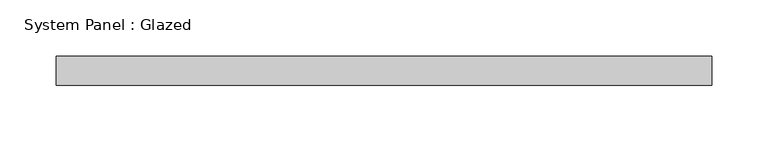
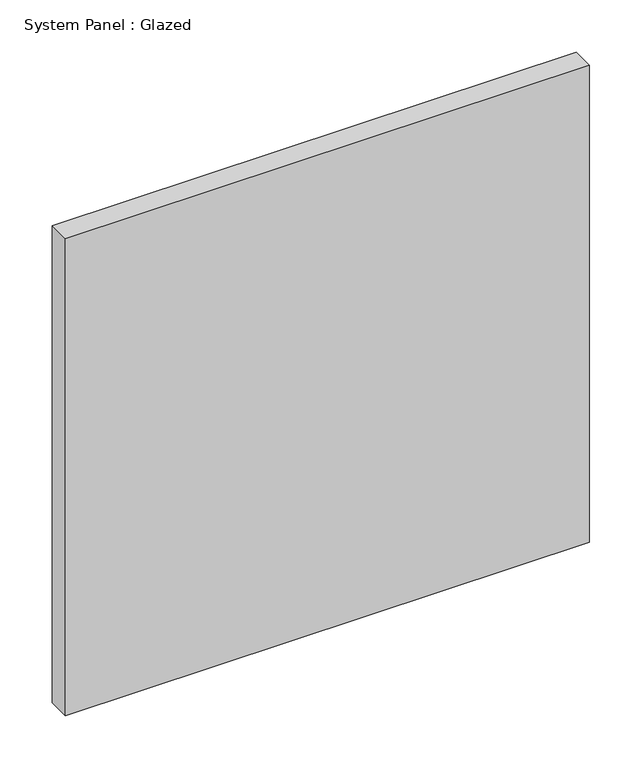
"""IFC4 building model written with IfcOpenShell, lengths in millimetres: plate geometry, System Panel : Glazed."""

from ifc_helpers import new_model, si_unit, origin, origin_with_axes, place, context, project, spatial, polyline, outline, extrude, source, transform, mapped, element, save


def system_panel_glazed_ea9a5d31(model_context):
    return source(origin(), model_context, "Body", "SweptSolid", [
        extrude(outline(polyline([(290.2999409, -12.7), (-290.2999409, -12.7), (-290.2999409, 12.7), (290.2999409, 12.7), (290.2999409, -12.7)])), origin_with_axes(), (0.0, 0.0, 1.0), 558.8),
    ])


if __name__ == "__main__":
    model = new_model("IFC4")
    model_context = context("Model", 3, world=origin())
    ifc_project = project(units=[si_unit("LENGTHUNIT", "METRE", prefix="MILLI")], contexts=[model_context])
    site = spatial("IfcSite", under=ifc_project)
    building = spatial("IfcBuilding", under=site)
    placement = place(None, origin())
    system_panel_glazed_shape = system_panel_glazed_ea9a5d31(model_context)
    element("IfcPlate", 1, ObjectType="System Panel : Glazed", at=placement, inside=building, context=model_context, shape_type="MappedRepresentation", body=[
        mapped(system_panel_glazed_shape, transform((0.0, 0.0, 0.0), x_axis=(1.0, 0.0, 0.0), y_axis=(0.0, 1.0, 0.0), z_axis=(0.0, 0.0, 1.0))),
    ])
    save(model, "model.ifc")
